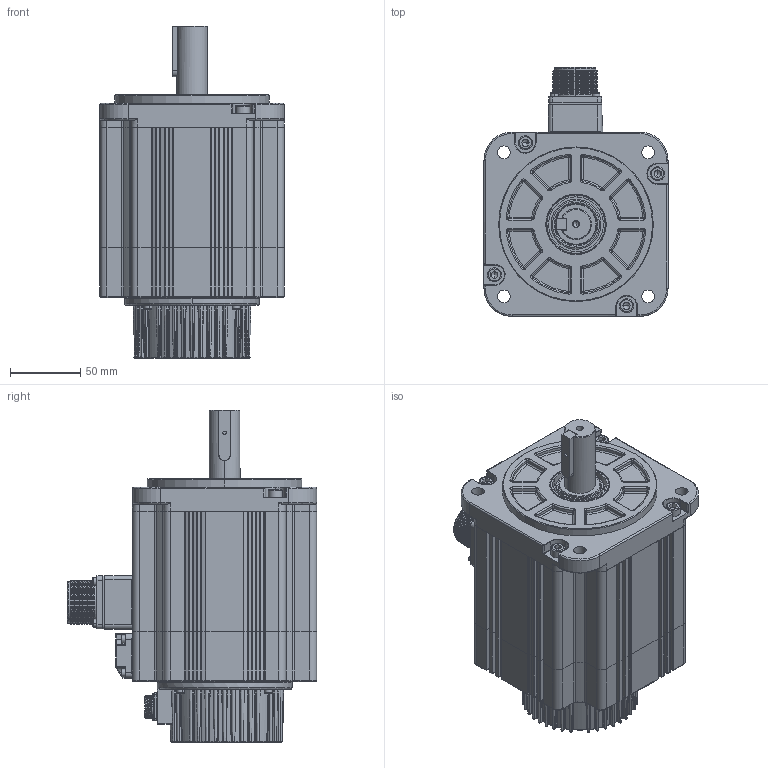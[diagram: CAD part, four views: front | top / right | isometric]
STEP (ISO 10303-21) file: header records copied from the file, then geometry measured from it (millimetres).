
FILE_DESCRIPTION (( 'STEP AP214' ), '1' );
FILE_NAME ('V7E-M13A-1R315-D2.STEP', '2021-08-09T07:25:26', ( '' ), ( '' ), 'SwSTEP 2.0', 'SolidWorks 2014', '' );
FILE_SCHEMA (( 'AUTOMOTIVE_DESIGN' ));
Length unit declared in the file: millimetre
Products named in the file (20): SC晤鎢ん欶200908_9郋; 雄薯瑤脣釱200909; 130陔ヶ傷裔200902; 坋趼攫芛 M2X8; SC瑤諾脣芛 MS3102A20-18P; 蚐猾 D00B999YF7-TC 30-42-7; 囀鞠褒 M3X8; 零件1^V7-130#电机组件（不带刹车）200927; 130陔ヶ傷裔200917; 囀鞠褒 M6X20; 儂褲200901; 囀鞠褒 M3X10; 价陬揤盄裔200912; V7-130#转子组件（不带刹车）; V7E-M13A-1R315-D2; 粣200907; SC瑤諾脣芛 16M-9H; 囀鞠褒 M3X30; V7-130#定子组件（不带刹车）; SC綴傷裔200903-4晚源倛
Assembly tree (34 placements, depth 4):
  V7E-M13A-1R315-D2
    V7-130#定子组件（不带刹车）
      囀鞠褒 M6X20  x4
      130陔ヶ傷裔200917
        130陔ヶ傷裔200902
    V7-130#转子组件（不带刹车）
      粣200907
    SC瑤諾脣芛 16M-9H
    SC晤鎢ん欶200908_9郋
    囀鞠褒 M3X10  x4
    坋趼攫芛 M2X8  x4
    蚐猾 D00B999YF7-TC 30-42-7
    零件1^V7-130#电机组件（不带刹车）200927
    儂褲200901
    雄薯瑤脣釱200909
    SC綴傷裔200903-4晚源倛
    SC瑤諾脣芛 MS3102A20-18P
    价陬揤盄裔200912
    囀鞠褒 M3X8  x4
    囀鞠褒 M3X30  x4
Bounding box: 131 x 177.3 x 236.2 mm (x, y, z)
Volume: 868874.1 mm3; surface area: 322855.4 mm2
Topology: 32 solids, 32 shells, 3266 faces, 7874 edges, 4542 vertices
Faces by surface type: cylinder 1247, bspline 877, plane 797, cone 309, torus 32, sphere 4
Entity records: 142586 total; most frequent: CARTESIAN_POINT 50646, ORIENTED_EDGE 13554, DIRECTION 12244, EDGE_CURVE 6777, AXIS2_PLACEMENT_3D 4841, VERTEX_POINT 4014, EDGE_LOOP 3121, FACE_OUTER_BOUND 2894
